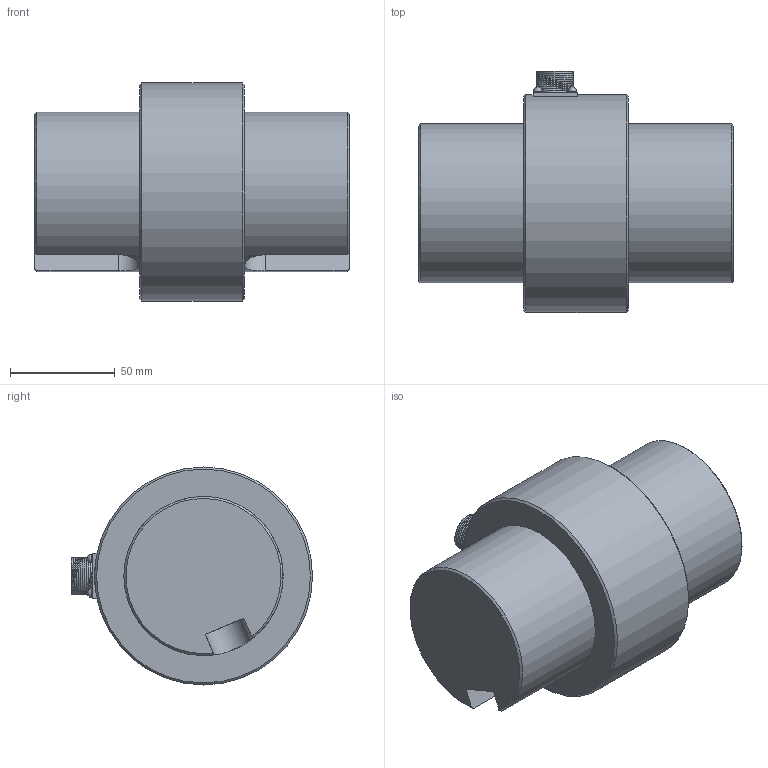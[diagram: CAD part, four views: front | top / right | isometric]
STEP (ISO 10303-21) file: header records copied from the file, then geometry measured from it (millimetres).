
FILE_DESCRIPTION(/* description */ (''),/* implementation_level */ '2;1');
FILE_NAME(/* name */ 'I:/New Datasheets/STEP Models/Pending models/YDNS/YDNS 2000-5000NM.step',/* time_stamp */ '2020-10-08T10:14:57+01:00',/* author */ (''),/* organization */ (''),/* preprocessor_version */ 'ST-DEVELOPER v18.1',/* originating_system */ 'Autodesk Translation Framework v9.3.0.1241',/* authorisation */ '');
FILE_SCHEMA (('AUTOMOTIVE_DESIGN { 1 0 10303 214 3 1 1 }'));
Length unit declared in the file: millimetre
Products named in the file (3): YDNS 2000-5000NM; YDNS 200~500KM Body; YDNS 200~500KM Shaft
Assembly tree (2 placements, depth 2):
  YDNS 2000-5000NM
    YDNS 200~500KM Body
    YDNS 200~500KM Shaft
Bounding box: 150 x 115 x 104 mm (x, y, z)
Volume: 858785 mm3; surface area: 83378.5 mm2
Topology: 2 solids, 2 shells, 47 faces, 118 edges, 77 vertices
Faces by surface type: cylinder 21, plane 17, sphere 4, cone 4, bspline 1
Full cylindrical faces by diameter (mm): 4 x4, 18 x10, 76 x2, 104 x1
Entity records: 3507 total; most frequent: CARTESIAN_POINT 2271, DIRECTION 229, ORIENTED_EDGE 228, EDGE_CURVE 114, AXIS2_PLACEMENT_3D 90, VERTEX_POINT 77, EDGE_LOOP 55, LINE 49
